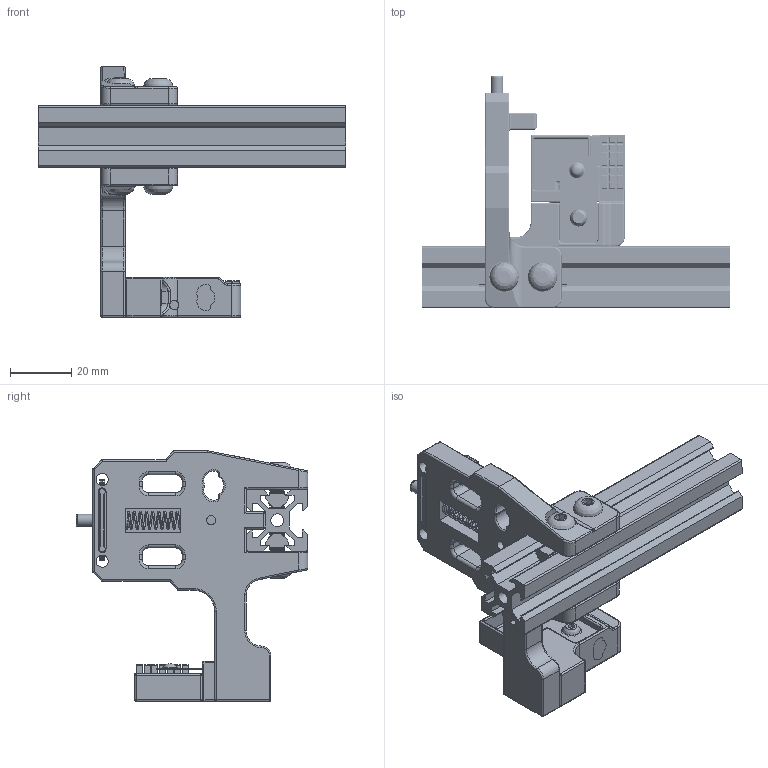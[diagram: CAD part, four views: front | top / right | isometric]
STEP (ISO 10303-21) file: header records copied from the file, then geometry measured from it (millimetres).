
FILE_DESCRIPTION(/* description */ (''),/* implementation_level */ '2;1');
FILE_NAME(/* name */ 'Lineux One r2.1 Dock v40.step',/* time_stamp */ '2025-07-26T13:34:41+07:00',/* author */ (''),/* organization */ (''),/* preprocessor_version */ 'ST-DEVELOPER v20.1',/* originating_system */ 'Autodesk Translation Framework v14.10.0.0',/* authorisation */ '');
FILE_SCHEMA (('AUTOMOTIVE_DESIGN { 1 0 10303 214 3 1 1 }'));
Products named in the file (37): Lineux One r2.1 Dock; Nozzle Blocker; Drip Tray; 6x3mm magnet (2); 6x3mm magnet (3); [a]_drip_tray; Nozzle Blocker (1); Bambulab A1 Brush; nozzle_blocker_mount (1); 6x3mm magnet (5); m3 washer (1); AA battery terminal; m3 x 10mm bhcs (4); m3 hex nut (3); 6x3mm magnet (4); m3 x 10mm bhcs (2); [a]_logo_nb; Dock; dock_1; Hardware (1); m3 x 6mm bhcs (1); 2020 Drop-in T-nut, M5; 2020 Drop-in T-nut, M5_1; m5 x 12mm bhcs (1); m5 x 12mm bhcs (3); Wire; m5 x 12mm bhcs; m5 x 12mm bhcs (2); spring OD6 ID5 20mm; m3 x OD4 16mm threaded dowel pin; m3 heat insert; 6 x 3mm n52 magnet; 8 x 5mm n52 magnet; 8 x 5mm n52 magnet (1); 2020 Drop-in T-nut, M5_2; 2020 Drop-in T-nut, M5_3; 2020 Extrusion
Assembly tree (36 placements, depth 4):
  Lineux One r2.1 Dock
    Nozzle Blocker
      Drip Tray
        6x3mm magnet (2)
        6x3mm magnet (3)
        [a]_drip_tray
      Nozzle Blocker (1)
        Bambulab A1 Brush
        nozzle_blocker_mount (1)
        6x3mm magnet (5)
        m3 washer (1)
        AA battery terminal
        m3 x 10mm bhcs (4)
        m3 hex nut (3)
        6x3mm magnet (4)
        m3 x 10mm bhcs (2)
        [a]_logo_nb
    Dock
      dock_1
      Hardware (1)
        m3 x 6mm bhcs (1)
        2020 Drop-in T-nut, M5
        2020 Drop-in T-nut, M5_1
        m5 x 12mm bhcs (1)
        m5 x 12mm bhcs (3)
        Wire
        m5 x 12mm bhcs
        m5 x 12mm bhcs (2)
        spring OD6 ID5 20mm
        m3 x OD4 16mm threaded dowel pin
        m3 heat insert
        6 x 3mm n52 magnet
        8 x 5mm n52 magnet
        8 x 5mm n52 magnet (1)
        2020 Drop-in T-nut, M5_2
        2020 Drop-in T-nut, M5_3
    2020 Extrusion
Bounding box: 100 x 75.5 x 81.66 mm (x, y, z)
Volume: 55624.1 mm3; surface area: 43279.6 mm2
Topology: 35 solids, 35 shells, 1572 faces, 4038 edges, 2540 vertices
Faces by surface type: cylinder 765, plane 512, bspline 146, torus 77, sphere 40, cone 32
Full cylindrical faces by diameter (mm): 0.3 x14, 2.356 x52, 2.5 x5, 2.529 x11, 2.729 x1, 2.927 x49, 3 x8, 3.086 x5, 3.4 x2, 3.99 x16, 4 x3, 4.145 x2, 4.2 x2, 4.7 x1, 4.901 x36, 5.12 x12, 5.5 x4, 5.7 x3, 6 x5, 6.1 x5, 6.7 x1, 7 x1, 8 x2, 8.1 x2, 10 x2
Entity records: 104679 total; most frequent: CARTESIAN_POINT 67489, ORIENTED_EDGE 7998, DIRECTION 6833, EDGE_CURVE 3999, VERTEX_POINT 2540, AXIS2_PLACEMENT_3D 2523, LINE 1787, VECTOR 1787
